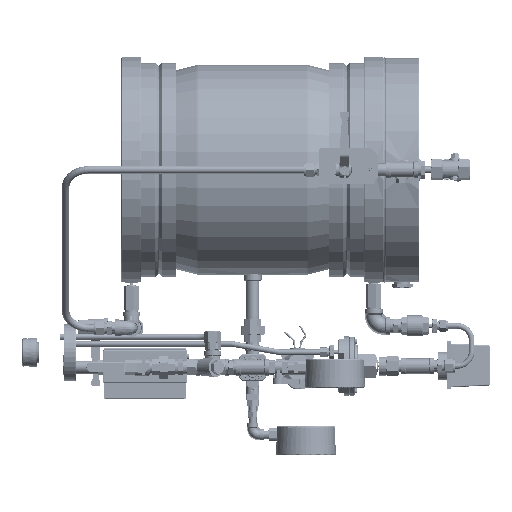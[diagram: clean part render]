
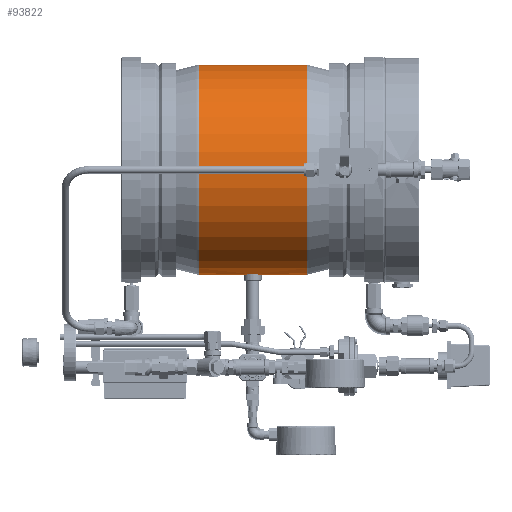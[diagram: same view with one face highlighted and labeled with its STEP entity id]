
A CAD part, front view. The second image highlights one B-rep face of the part: STEP entity #93822.
In plain terms, the highlighted cylindrical face has radius 177 mm (diameter 354 mm), a partial arc.
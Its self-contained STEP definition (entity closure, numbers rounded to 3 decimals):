
#3241=B_SPLINE_CURVE_WITH_KNOTS('',3,(#136763,#136764,#136765,#136766,#136767,
#136768,#136769,#136770,#136771,#136772,#136773,#136774,#136775,#136776,
#136777,#136778,#136779,#136780),.UNSPECIFIED.,.F.,.F.,(4,2,2,2,2,2,2,2,
4),(2.11,2.638,3.166,3.693,
4.221,4.748,5.276,5.804,6.331),
 .UNSPECIFIED.);
#4847=FACE_BOUND('',#14155,.T.);
#8517=FACE_OUTER_BOUND('',#14154,.T.);
#14154=EDGE_LOOP('',(#60062,#60063,#60064,#60065,#60066,#60067,#60068,#60069,
#60070,#60071,#60072,#60073));
#14155=EDGE_LOOP('',(#60074,#60075,#60076,#60077,#60078,#60079));
#20422=LINE('',#135861,#26754);
#20423=LINE('',#135863,#26755);
#20424=LINE('',#135865,#26756);
#20425=LINE('',#135867,#26757);
#20426=LINE('',#135869,#26758);
#20427=LINE('',#135871,#26759);
#20428=LINE('',#135873,#26760);
#20429=LINE('',#135877,#26761);
#20485=LINE('',#136761,#26817);
#20486=LINE('',#136762,#26818);
#20487=LINE('',#136781,#26819);
#26754=VECTOR('',#109568,177.);
#26755=VECTOR('',#109569,10.);
#26756=VECTOR('',#109570,177.);
#26757=VECTOR('',#109571,10.);
#26758=VECTOR('',#109572,177.);
#26759=VECTOR('',#109573,10.);
#26760=VECTOR('',#109574,177.);
#26761=VECTOR('',#109577,177.);
#26817=VECTOR('',#109859,10.);
#26818=VECTOR('',#109860,10.);
#26819=VECTOR('',#109861,10.);
#33157=CIRCLE('',#99619,15.);
#33162=CIRCLE('',#99629,177.);
#33163=CIRCLE('',#99630,177.);
#33164=CIRCLE('',#99631,177.);
#33165=CIRCLE('',#99632,177.);
#37347=VERTEX_POINT('',#135859);
#37348=VERTEX_POINT('',#135860);
#37349=VERTEX_POINT('',#135862);
#37350=VERTEX_POINT('',#135864);
#37351=VERTEX_POINT('',#135866);
#37352=VERTEX_POINT('',#135868);
#37353=VERTEX_POINT('',#135870);
#37354=VERTEX_POINT('',#135872);
#37355=VERTEX_POINT('',#135874);
#37356=VERTEX_POINT('',#135876);
#37416=VERTEX_POINT('',#136181);
#37450=VERTEX_POINT('',#136613);
#37466=VERTEX_POINT('',#136741);
#37467=VERTEX_POINT('',#136743);
#37468=VERTEX_POINT('',#136754);
#37469=VERTEX_POINT('',#136757);
#37470=VERTEX_POINT('',#136760);
#45982=EDGE_CURVE('',#37347,#37348,#20422,.T.);
#45983=EDGE_CURVE('',#37349,#37347,#20423,.T.);
#45984=EDGE_CURVE('',#37350,#37349,#20424,.T.);
#45985=EDGE_CURVE('',#37351,#37350,#20425,.T.);
#45986=EDGE_CURVE('',#37352,#37351,#20426,.T.);
#45987=EDGE_CURVE('',#37353,#37352,#20427,.T.);
#45988=EDGE_CURVE('',#37354,#37353,#20428,.T.);
#45990=EDGE_CURVE('',#37356,#37355,#20429,.T.);
#46137=EDGE_CURVE('',#37450,#37466,#33157,.T.);
#46143=EDGE_CURVE('',#37468,#37348,#33162,.T.);
#46144=EDGE_CURVE('',#37356,#37468,#33163,.T.);
#46145=EDGE_CURVE('',#37469,#37355,#33164,.T.);
#46146=EDGE_CURVE('',#37354,#37469,#33165,.T.);
#46147=EDGE_CURVE('',#37470,#37450,#20485,.T.);
#46148=EDGE_CURVE('',#37466,#37467,#20486,.T.);
#46149=EDGE_CURVE('',#37467,#37470,#3241,.T.);
#46150=EDGE_CURVE('',#37416,#37470,#20487,.T.);
#60062=ORIENTED_EDGE('',*,*,#45982,.T.);
#60063=ORIENTED_EDGE('',*,*,#46143,.F.);
#60064=ORIENTED_EDGE('',*,*,#46144,.F.);
#60065=ORIENTED_EDGE('',*,*,#45990,.T.);
#60066=ORIENTED_EDGE('',*,*,#46145,.F.);
#60067=ORIENTED_EDGE('',*,*,#46146,.F.);
#60068=ORIENTED_EDGE('',*,*,#45988,.T.);
#60069=ORIENTED_EDGE('',*,*,#45987,.T.);
#60070=ORIENTED_EDGE('',*,*,#45986,.T.);
#60071=ORIENTED_EDGE('',*,*,#45985,.T.);
#60072=ORIENTED_EDGE('',*,*,#45984,.T.);
#60073=ORIENTED_EDGE('',*,*,#45983,.T.);
#60074=ORIENTED_EDGE('',*,*,#46147,.T.);
#60075=ORIENTED_EDGE('',*,*,#46137,.T.);
#60076=ORIENTED_EDGE('',*,*,#46148,.T.);
#60077=ORIENTED_EDGE('',*,*,#46149,.T.);
#60078=ORIENTED_EDGE('',*,*,#46150,.F.);
#60079=ORIENTED_EDGE('',*,*,#46150,.T.);
#87317=CYLINDRICAL_SURFACE('',#99628,177.);
#93822=ADVANCED_FACE('',(#8517,#4847),#87317,.T.);
#99619=AXIS2_PLACEMENT_3D('',#136742,#109830,#109831);
#99628=AXIS2_PLACEMENT_3D('',#136753,#109849,#109850);
#99629=AXIS2_PLACEMENT_3D('',#136755,#109851,#109852);
#99630=AXIS2_PLACEMENT_3D('',#136756,#109853,#109854);
#99631=AXIS2_PLACEMENT_3D('',#136758,#109855,#109856);
#99632=AXIS2_PLACEMENT_3D('',#136759,#109857,#109858);
#109568=DIRECTION('',(1.,0.,0.));
#109569=DIRECTION('',(1.,0.,0.));
#109570=DIRECTION('',(1.,0.,0.));
#109571=DIRECTION('',(1.,0.,0.));
#109572=DIRECTION('',(1.,0.,0.));
#109573=DIRECTION('',(1.,0.,0.));
#109574=DIRECTION('',(1.,0.,0.));
#109577=DIRECTION('',(-1.,0.,0.));
#109830=DIRECTION('center_axis',(0.,0.,
1.));
#109831=DIRECTION('ref_axis',(1.,0.,0.));
#109849=DIRECTION('center_axis',(1.,0.,0.));
#109850=DIRECTION('ref_axis',(0.,-0.924,0.383));
#109851=DIRECTION('center_axis',(1.,0.,0.));
#109852=DIRECTION('ref_axis',(0.,1.,0.));
#109853=DIRECTION('center_axis',(1.,0.,0.));
#109854=DIRECTION('ref_axis',(0.,1.,0.));
#109855=DIRECTION('center_axis',(-1.,0.,0.));
#109856=DIRECTION('ref_axis',(0.,1.,0.));
#109857=DIRECTION('center_axis',(-1.,0.,0.));
#109858=DIRECTION('ref_axis',(0.,1.,0.));
#109859=DIRECTION('',(1.,0.,0.));
#109860=DIRECTION('',(1.,0.,0.));
#109861=DIRECTION('',(-1.,0.,0.));
#135859=CARTESIAN_POINT('',(302.353,647.209,638.737));
#135860=CARTESIAN_POINT('',(375.973,647.209,638.737));
#135861=CARTESIAN_POINT('',(284.853,647.209,638.737));
#135862=CARTESIAN_POINT('',(296.842,647.209,638.737));
#135863=CARTESIAN_POINT('',(284.853,647.209,638.737));
#135864=CARTESIAN_POINT('',(291.864,647.209,638.737));
#135865=CARTESIAN_POINT('',(284.853,647.209,638.737));
#135866=CARTESIAN_POINT('',(277.842,647.209,638.737));
#135867=CARTESIAN_POINT('',(284.853,647.209,638.737));
#135868=CARTESIAN_POINT('',(272.864,647.209,638.737));
#135869=CARTESIAN_POINT('',(284.853,647.209,638.737));
#135870=CARTESIAN_POINT('',(267.353,647.209,638.737));
#135871=CARTESIAN_POINT('',(284.853,647.209,638.737));
#135872=CARTESIAN_POINT('',(193.732,647.209,638.737));
#135873=CARTESIAN_POINT('',(284.853,647.209,638.737));
#135874=CARTESIAN_POINT('',(193.732,660.683,706.472));
#135876=CARTESIAN_POINT('',(375.973,660.683,706.472));
#135877=CARTESIAN_POINT('',(284.853,660.683,706.472));
#136181=CARTESIAN_POINT('',(299.853,483.683,529.472));
#136613=CARTESIAN_POINT('',(299.853,483.683,529.472));
#136741=CARTESIAN_POINT('',(269.853,483.683,529.472));
#136742=CARTESIAN_POINT('Origin',(284.853,483.683,529.472));
#136743=CARTESIAN_POINT('',(270.853,483.683,529.472));
#136753=CARTESIAN_POINT('Origin',(284.853,483.683,706.472));
#136754=CARTESIAN_POINT('',(375.973,483.683,529.472));
#136755=CARTESIAN_POINT('Origin',(375.973,483.683,706.472));
#136756=CARTESIAN_POINT('Origin',(375.973,483.683,706.472));
#136757=CARTESIAN_POINT('',(193.732,483.683,529.472));
#136758=CARTESIAN_POINT('Origin',(193.732,483.683,706.472));
#136759=CARTESIAN_POINT('Origin',(193.732,483.683,706.472));
#136760=CARTESIAN_POINT('',(298.853,483.683,529.472));
#136761=CARTESIAN_POINT('',(296.728,483.683,529.472));
#136762=CARTESIAN_POINT('',(284.853,483.683,529.472));
#136763=CARTESIAN_POINT('Ctrl Pts',(270.853,483.683,529.472));
#136764=CARTESIAN_POINT('Ctrl Pts',(270.853,481.924,529.472));
#136765=CARTESIAN_POINT('Ctrl Pts',(271.204,480.049,529.501));
#136766=CARTESIAN_POINT('Ctrl Pts',(272.633,476.6,529.606));
#136767=CARTESIAN_POINT('Ctrl Pts',(273.711,475.026,529.68));
#136768=CARTESIAN_POINT('Ctrl Pts',(276.196,472.541,529.819));
#136769=CARTESIAN_POINT('Ctrl Pts',(277.769,471.463,529.893));
#136770=CARTESIAN_POINT('Ctrl Pts',(281.219,470.034,529.998));
#136771=CARTESIAN_POINT('Ctrl Pts',(283.094,469.683,530.027));
#136772=CARTESIAN_POINT('Ctrl Pts',(286.611,469.683,530.027));
#136773=CARTESIAN_POINT('Ctrl Pts',(288.487,470.034,529.998));
#136774=CARTESIAN_POINT('Ctrl Pts',(291.936,471.463,529.893));
#136775=CARTESIAN_POINT('Ctrl Pts',(293.509,472.541,529.819));
#136776=CARTESIAN_POINT('Ctrl Pts',(295.995,475.026,529.68));
#136777=CARTESIAN_POINT('Ctrl Pts',(297.072,476.6,529.606));
#136778=CARTESIAN_POINT('Ctrl Pts',(298.501,480.049,529.501));
#136779=CARTESIAN_POINT('Ctrl Pts',(298.853,481.924,529.472));
#136780=CARTESIAN_POINT('Ctrl Pts',(298.853,483.683,529.472));
#136781=CARTESIAN_POINT('',(284.853,483.683,529.472));
